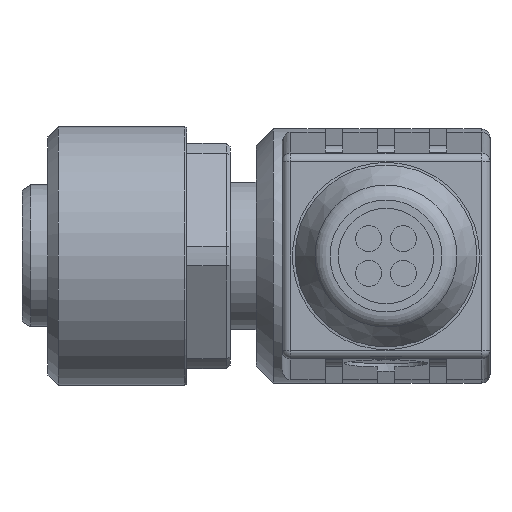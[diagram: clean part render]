
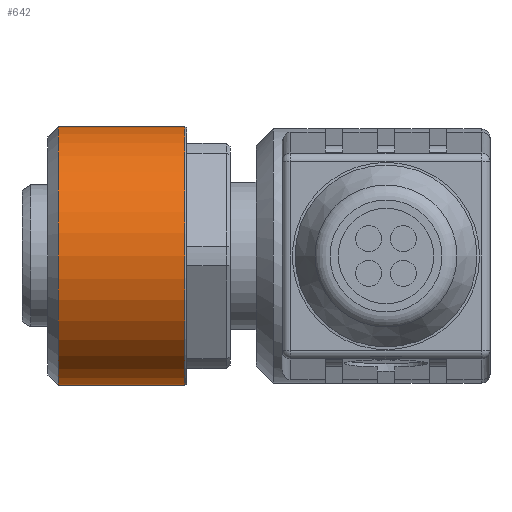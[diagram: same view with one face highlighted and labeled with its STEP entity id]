
A CAD part, left-side view. The second image highlights one B-rep face of the part: STEP entity #642.
In plain terms, the highlighted cylindrical face has radius 7.5 mm (diameter 15 mm), a full revolution.
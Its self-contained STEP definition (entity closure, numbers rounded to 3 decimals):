
#526=CYLINDRICAL_SURFACE('',#2248,7.5);
#642=ADVANCED_FACE('',(#769,#770),#526,.T.);
#769=FACE_BOUND('',#934,.T.);
#770=FACE_BOUND('',#935,.T.);
#934=EDGE_LOOP('',(#1440));
#935=EDGE_LOOP('',(#1441));
#1440=ORIENTED_EDGE('',*,*,#1897,.T.);
#1441=ORIENTED_EDGE('',*,*,#1919,.F.);
#1648=VERTEX_POINT('',#3500);
#1659=VERTEX_POINT('',#3545);
#1897=EDGE_CURVE('',#1648,#1648,#2021,.T.);
#1919=EDGE_CURVE('',#1659,#1659,#2028,.T.);
#2021=CIRCLE('',#2228,7.5);
#2028=CIRCLE('',#2247,7.5);
#2228=AXIS2_PLACEMENT_3D('',#3499,#2761,#2762);
#2247=AXIS2_PLACEMENT_3D('',#3544,#2814,#2815);
#2248=AXIS2_PLACEMENT_3D('',#3546,#2816,#2817);
#2761=DIRECTION('',(0.,1.,0.));
#2762=DIRECTION('',(-1.,0.,0.));
#2814=DIRECTION('',(0.,1.,0.));
#2815=DIRECTION('',(-1.,0.,0.));
#2816=DIRECTION('',(0.,1.,0.));
#2817=DIRECTION('',(1.,0.,0.));
#3499=CARTESIAN_POINT('',(31.494,11.63,0.034));
#3500=CARTESIAN_POINT('',(38.994,11.63,0.034));
#3544=CARTESIAN_POINT('',(31.494,18.93,0.034));
#3545=CARTESIAN_POINT('',(23.994,18.93,0.034));
#3546=CARTESIAN_POINT('',(31.494,13.98,0.034));
